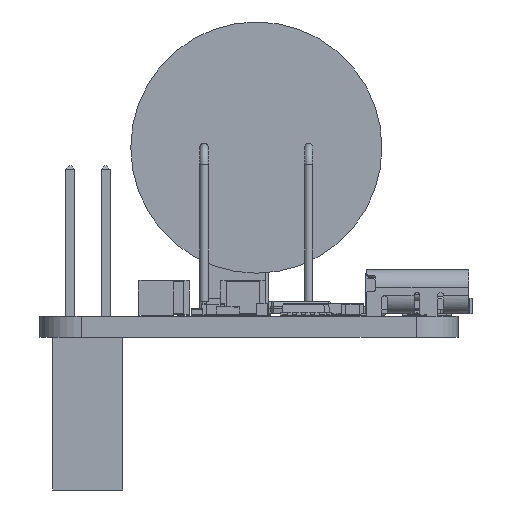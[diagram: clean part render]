
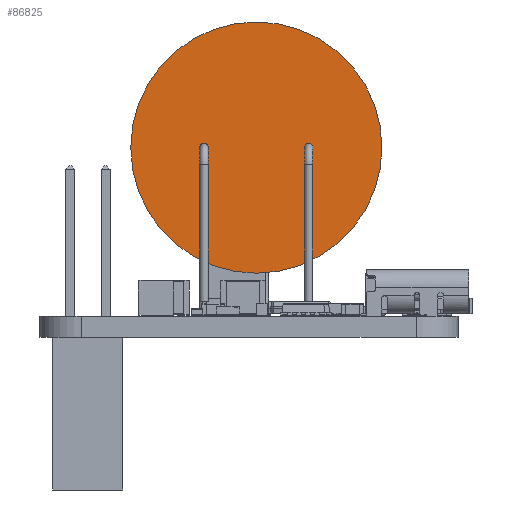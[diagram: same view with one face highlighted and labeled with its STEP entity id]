
A CAD part, left-side view. The second image highlights one B-rep face of the part: STEP entity #86825.
In plain terms, the highlighted planar face has unit normal (-1, 0, 0) as drawn and (0, 0, -1) by its records, which use the part's own axes.
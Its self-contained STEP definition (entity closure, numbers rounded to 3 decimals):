
#86796 = EDGE_CURVE('',#86797,#86797,#86799,.T.);
#86797 = VERTEX_POINT('',#86798);
#86798 = CARTESIAN_POINT('',(9.,0.,0.));
#86799 = CIRCLE('',#86800,9.);
#86800 = AXIS2_PLACEMENT_3D('',#86801,#86802,#86803);
#86801 = CARTESIAN_POINT('',(0.,0.,0.));
#86802 = DIRECTION('',(0.,0.,1.));
#86803 = DIRECTION('',(1.,0.,-0.));
#86825 = ADVANCED_FACE('',(#86826),#86829,.F.);
#86826 = FACE_BOUND('',#86827,.T.);
#86827 = EDGE_LOOP('',(#86828));
#86828 = ORIENTED_EDGE('',*,*,#86796,.F.);
#86829 = PLANE('',#86830);
#86830 = AXIS2_PLACEMENT_3D('',#86831,#86832,#86833);
#86831 = CARTESIAN_POINT('',(0.,0.,0.));
#86832 = DIRECTION('',(0.,0.,1.));
#86833 = DIRECTION('',(1.,0.,-0.));
